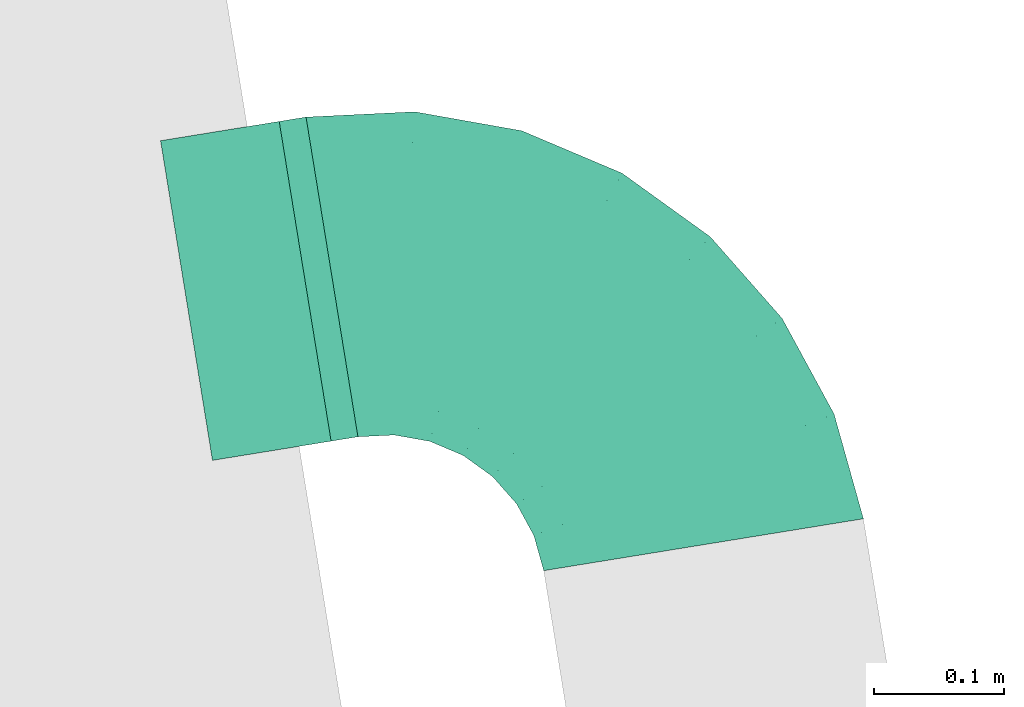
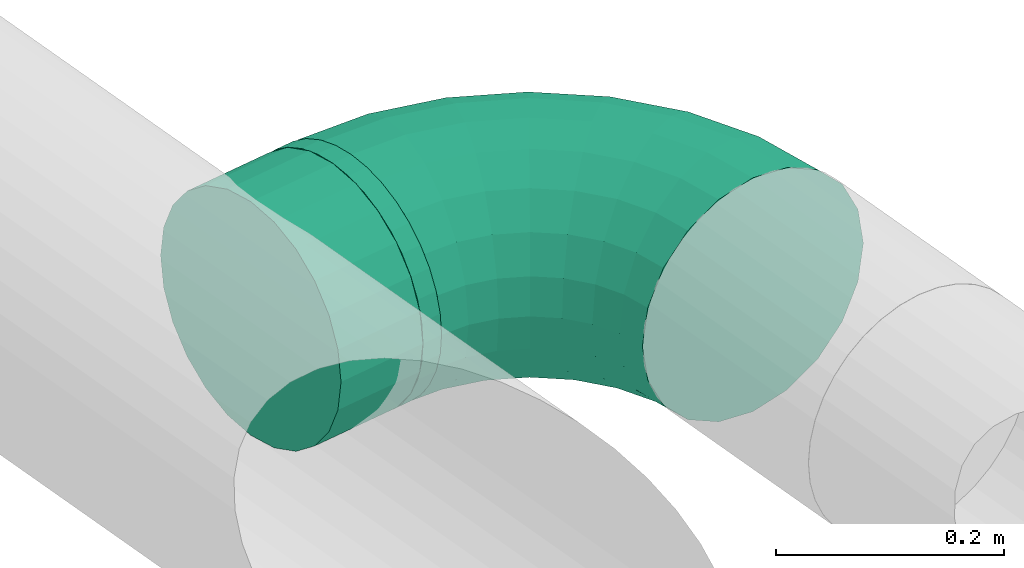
# One storey, part 25 of 39: 2 flow fittings, 1 flow segment.
"""IFC2X3 building model written with IfcOpenShell, lengths in millimetres."""

import ifcopenshell
import ifcopenshell.guid

model = None  # the IFC model being written
_history = None  # IfcOwnerHistory: only IFC2X3 demands one
_inside = {}  # id of a spatial element -> (the spatial element, [elements in it])
_under = {}  # id of a project, library or spatial element -> (it, [spatial elements below it])
_declared = {}  # id of a project -> (the project, [libraries it declares])
_typed = {}  # id of a type object -> (the type object, [elements of that type])
_made_of = {}  # id of a material, layer set ... -> (it, [elements and type objects made of it])


def new_model(schema):
    """Start an empty IFC model of exactly this schema.

    Asked for "IFC4X3", IfcOpenShell would pick the latest addendum, in which some entities
    have other attributes; the version numbers below select the first issue.
    IFC2X3 requires an IfcOwnerHistory on every rooted entity: one is made here for all.
    """
    global model, _history
    if schema == "IFC4X3":
        model = ifcopenshell.file(schema_version=(4, 3, 0, 0))
    else:
        model = ifcopenshell.file(schema=schema)
    _inside.clear()
    _under.clear()
    _declared.clear()
    _typed.clear()
    _made_of.clear()
    _history = None
    if model.schema == "IFC2X3":
        org = make("IfcOrganization", Name="unknown")
        user = make(
            "IfcPersonAndOrganization",
            ThePerson=make("IfcPerson", FamilyName="unknown"),
            TheOrganization=org,
        )
        app = make(
            "IfcApplication",
            ApplicationDeveloper=org,
            Version="unknown",
            ApplicationFullName="unknown",
            ApplicationIdentifier="unknown",
        )
        _history = make(
            "IfcOwnerHistory",
            OwningUser=user,
            OwningApplication=app,
            ChangeAction="ADDED",
            CreationDate=0,
        )
    return model


def make(cls, **values):
    """One entity of the class cls with the attributes given. An attribute that is None is left unset."""
    return model.create_entity(
        cls, **{name: value for name, value in values.items() if value is not None}
    )


def entity(cls, *values):
    """Any entity or typed value of the class cls, its attributes in the order of the schema. None: left unset."""
    e = model.create_entity(cls)
    for i, value in enumerate(values):
        if value is not None:
            e[i] = value
    return e


def rooted(cls, **values):
    """An entity with a GlobalId (a new one), such as an element, a storey or a relation."""
    return make(cls, GlobalId=ifcopenshell.guid.new(), OwnerHistory=_history, **values)


def si_unit(unit_type, name, prefix=None):
    """IfcSIUnit, for example si_unit("LENGTHUNIT", "METRE", prefix="MILLI")."""
    return make("IfcSIUnit", UnitType=unit_type, Prefix=prefix, Name=name)


def converted_unit(unit_type, name, factor, base, dimensions=None, offset=None):
    """IfcConversionBasedUnit, such as the inch: factor (a typed value) times the base unit."""
    return make(
        "IfcConversionBasedUnit"
        if offset is None
        else "IfcConversionBasedUnitWithOffset",
        ConversionOffset=offset,
        Dimensions=None
        if dimensions is None
        else entity("IfcDimensionalExponents", *dimensions),
        UnitType=unit_type,
        Name=name,
        ConversionFactor=make(
            "IfcMeasureWithUnit", ValueComponent=factor, UnitComponent=base
        ),
    )


def derived_unit(unit_type, elements):
    """IfcDerivedUnit: a product of units, each with its exponent."""
    return make(
        "IfcDerivedUnit",
        Elements=[
            make("IfcDerivedUnitElement", Unit=unit, Exponent=power)
            for unit, power in elements
        ],
        UnitType=unit_type,
    )


def assignment(units):
    """IfcUnitAssignment: the units of a project."""
    return None if units is None else make("IfcUnitAssignment", Units=units)


def point(xyz):
    """IfcCartesianPoint."""
    return None if xyz is None else make("IfcCartesianPoint", Coordinates=xyz)


def direction(xyz):
    """IfcDirection."""
    return None if xyz is None else make("IfcDirection", DirectionRatios=xyz)


def frame(location, z_axis=None, x_axis=None):
    """IfcAxis2Placement3D, a coordinate frame: its origin and axes. An axis left out is left unset."""
    return make(
        "IfcAxis2Placement3D",
        Location=point(location),
        Axis=direction(z_axis),
        RefDirection=direction(x_axis),
    )


def frame_2d(location, x_axis=None):
    """IfcAxis2Placement2D, a coordinate frame in the plane: its origin and x axis."""
    return make(
        "IfcAxis2Placement2D", Location=point(location), RefDirection=direction(x_axis)
    )


def origin():
    """The frame at (0, 0, 0) with its axes left unset."""
    return frame((0.0, 0.0, 0.0))


def origin_with_axes():
    """The frame at (0, 0, 0) with the z axis (0, 0, 1) and the x axis (1, 0, 0) written out."""
    return frame((0.0, 0.0, 0.0), z_axis=(0.0, 0.0, 1.0), x_axis=(1.0, 0.0, 0.0))


def place(relative_to, where):
    """IfcLocalPlacement: puts the frame where relative to a parent placement (None: the world)."""
    return make(
        "IfcLocalPlacement", PlacementRelTo=relative_to, RelativePlacement=where
    )


def context(
    kind, dimensions, precision=None, world=None, true_north=None, identifier=None
):
    """IfcGeometricRepresentationContext, for example the 3D "Model" context."""
    return make(
        "IfcGeometricRepresentationContext",
        ContextIdentifier=identifier,
        ContextType=kind,
        CoordinateSpaceDimension=dimensions,
        Precision=precision,
        WorldCoordinateSystem=world,
        TrueNorth=true_north,
    )


def subcontext(parent, identifier, kind, view, scale=None):
    """IfcGeometricRepresentationSubContext, for example "Body" below "Model"."""
    return make(
        "IfcGeometricRepresentationSubContext",
        ContextIdentifier=identifier,
        ContextType=kind,
        ParentContext=parent,
        TargetScale=scale,
        TargetView=view,
    )


def project(units=None, contexts=None):
    """IfcProject with its units and contexts."""
    return rooted(
        "IfcProject",
        Name="project",
        RepresentationContexts=contexts,
        UnitsInContext=assignment(units),
    )


def spatial(cls, under=None, at=None, **own):
    """A site, building, storey or space (cls), placed at a placement, below another one or the project."""
    s = rooted(cls, ObjectPlacement=at, **own)
    if under is not None:
        _under.setdefault(under.id(), (under, []))[1].append(s)
    return s


def profile(cls, at=None, kind="AREA", **sizes):
    """A parametric profile (cls). Its sizes go by their IFC names, for example OverallWidth=200.0."""
    return make(cls, ProfileType=kind, Position=at, **sizes)


def circle(**sizes):
    """IfcCircleProfileDef."""
    return profile("IfcCircleProfileDef", **sizes)


def extrude(swept, where, along, depth):
    """IfcExtrudedAreaSolid: the profile swept, set in the frame where, extruded along a direction by depth."""
    return make(
        "IfcExtrudedAreaSolid",
        SweptArea=swept,
        Position=where,
        ExtrudedDirection=direction(along),
        Depth=depth,
    )


def faces_of(points, faces, orient=None, outer=None):
    """IfcFace entities. A face is a list of loops; a loop is a list of indices into points, from 0.

    orient and outer hold one flag for each loop. By default every Orientation is true, the
    first loop of a face is its IfcFaceOuterBound and the others are IfcFaceBound.
    """
    made = []
    for i, loops in enumerate(faces):
        bounds = []
        for j, loop in enumerate(loops):
            is_outer = j == 0 if outer is None else outer[i][j]
            bounds.append(
                make(
                    "IfcFaceOuterBound" if is_outer else "IfcFaceBound",
                    Bound=make("IfcPolyLoop", Polygon=[points[k] for k in loop]),
                    Orientation=True if orient is None else orient[i][j],
                )
            )
        made.append(make("IfcFace", Bounds=bounds))
    return made


def faceted_brep(points, faces, orient=None, outer=None, voids=None):
    """IfcFacetedBrep: a solid bounded by flat faces; with voids (closed shells), ...WithVoids."""
    shared = [point(p) for p in points]
    hull = make("IfcClosedShell", CfsFaces=faces_of(shared, faces, orient, outer))
    if voids is None:
        return make("IfcFacetedBrep", Outer=hull)
    return make(
        "IfcFacetedBrepWithVoids",
        Outer=hull,
        Voids=[
            make(cls, CfsFaces=faces_of(shared, fs, o, b)) for cls, fs, o, b in voids
        ],
    )


def shape(context_of_items, identifier, shape_type, items):
    """IfcShapeRepresentation: the items that make up one representation, for example the "Body"."""
    return make(
        "IfcShapeRepresentation",
        ContextOfItems=context_of_items,
        RepresentationIdentifier=identifier,
        RepresentationType=shape_type,
        Items=items,
    )


def source(mapping_origin, context_of_items, identifier, shape_type, items):
    """IfcRepresentationMap: a shape defined once, which mapped items show again and again."""
    return make(
        "IfcRepresentationMap",
        MappingOrigin=mapping_origin,
        MappedRepresentation=shape(context_of_items, identifier, shape_type, items),
    )


def transform(
    local_origin,
    x_axis=None,
    y_axis=None,
    z_axis=None,
    scale=None,
    scale2=None,
    scale3=None,
    uniform=True,
):
    """IfcCartesianTransformationOperator3D, or its non-uniform kind. x_axis, y_axis, z_axis: its Axis1, 2, 3."""
    if uniform:
        return make(
            "IfcCartesianTransformationOperator3D",
            Axis1=direction(x_axis),
            Axis2=direction(y_axis),
            LocalOrigin=point(local_origin),
            Scale=scale,
            Axis3=direction(z_axis),
        )
    return make(
        "IfcCartesianTransformationOperator3DnonUniform",
        Axis1=direction(x_axis),
        Axis2=direction(y_axis),
        LocalOrigin=point(local_origin),
        Scale=scale,
        Axis3=direction(z_axis),
        Scale2=scale2,
        Scale3=scale3,
    )


def mapped(mapping_source, mapping_target):
    """IfcMappedItem: shows the shape of a source again, moved by a transform."""
    return make(
        "IfcMappedItem", MappingSource=mapping_source, MappingTarget=mapping_target
    )


def material(Name=None, Category=None):
    """IfcMaterial."""
    return make("IfcMaterial", Name=Name, Category=Category)


def made_of(thing, what):
    """Note that an element or type object is made of a material, layer set ...; save() writes the relation."""
    if what is not None:
        _made_of.setdefault(what.id(), (what, []))[1].append(thing)
    return thing


def type_object(cls, material=None, **own):
    """A type object (cls), such as IfcWallType, which elements share."""
    return made_of(rooted(cls, **own), material)


def element(
    cls,
    number,
    at=None,
    inside=None,
    cuts=None,
    type_object=None,
    material=None,
    context=None,
    identifier="Body",
    shape_type=None,
    held_by="IfcProductDefinitionShape",
    body=None,
    shapes=None,
    **own,
):
    """One element of the class cls, such as IfcWall. Its Tag is "e" and its number.

    at: its placement. inside: the storey or other place that contains it. cuts: it is an
    opening in that element (IfcRelVoidsElement). A single representation is given by context,
    identifier, shape_type and body (its items); several are given by shapes. held_by: the class
    of the entity that holds the representations. save() writes the other relations.
    """
    e = rooted(cls, Tag="e%d" % number, ObjectPlacement=at, **own)
    if body is not None:
        shapes = [shape(context, identifier, shape_type, body)]
    if shapes is not None:
        e.Representation = make(held_by, Representations=shapes)
    if inside is not None:
        _inside.setdefault(inside.id(), (inside, []))[1].append(e)
    if cuts is not None:
        rooted(
            "IfcRelVoidsElement", RelatingBuildingElement=cuts, RelatedOpeningElement=e
        )
    if type_object is not None:
        _typed.setdefault(type_object.id(), (type_object, []))[1].append(e)
    return made_of(e, material)


def aggregate(whole, parts):
    """IfcRelAggregates: a whole, such as a stair, and the parts it consists of."""
    return rooted("IfcRelAggregates", RelatingObject=whole, RelatedObjects=parts)


def save(model, path):
    """Write the relations noted so far, then the file.

    IfcRelAggregates (storeys below a building ...), IfcRelContainedInSpatialStructure (elements
    in a storey), IfcRelDefinesByType, IfcRelAssociatesMaterial and IfcRelDeclares: one each for
    every whole, place, type object, material and project.
    """
    for whole, parts in _under.values():
        aggregate(whole, parts)
    for where, things in _inside.values():
        rooted(
            "IfcRelContainedInSpatialStructure",
            RelatedElements=things,
            RelatingStructure=where,
        )
    for kind, things in _typed.values():
        rooted("IfcRelDefinesByType", RelatedObjects=things, RelatingType=kind)
    for what, things in _made_of.values():
        rooted("IfcRelAssociatesMaterial", RelatedObjects=things, RelatingMaterial=what)
    for by, libraries in _declared.values():
        rooted("IfcRelDeclares", RelatingContext=by, RelatedDefinitions=libraries)
    model.write(path)


model = new_model("IFC2X3")

# Units and contexts
plan_context = context("Plan", 3, precision=1e-05, world=origin_with_axes())
model_context = context("Model", 3, precision=0.01, world=origin(), true_north=direction((6.12323399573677e-17, 1.0)))
body_context = subcontext(model_context, "Body", "Model", "MODEL_VIEW")
ifc_project = project(units=[converted_unit("PLANEANGLEUNIT", "DEGREE", entity("IfcPositiveLengthMeasure", 0.0174532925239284), si_unit("PLANEANGLEUNIT", "RADIAN"), dimensions=[0, 0, 0, 0, 0, 0, 0]), si_unit("AREAUNIT", "SQUARE_METRE"), si_unit("LENGTHUNIT", "METRE", prefix="MILLI"), si_unit("MASSUNIT", "GRAM", prefix="KILO"), si_unit("POWERUNIT", "WATT"), si_unit("PRESSUREUNIT", "PASCAL", prefix="KILO"), si_unit("FORCEUNIT", "NEWTON", prefix="KILO"), si_unit("ELECTRICVOLTAGEUNIT", "VOLT"), si_unit("ELECTRICCURRENTUNIT", "AMPERE"), si_unit("THERMODYNAMICTEMPERATUREUNIT", "DEGREE_CELSIUS"), si_unit("TIMEUNIT", "SECOND"), si_unit("VOLUMEUNIT", "CUBIC_METRE"), derived_unit("LINEARVELOCITYUNIT", [(si_unit("LENGTHUNIT", "METRE"), 1), (si_unit("TIMEUNIT", "SECOND"), -1)]), derived_unit("VOLUMETRICFLOWRATEUNIT", [(si_unit("VOLUMEUNIT", "CUBIC_METRE"), 1), (si_unit("TIMEUNIT", "SECOND"), -1)]), derived_unit("THERMALTRANSMITTANCEUNIT", [(si_unit("POWERUNIT", "WATT"), 1), (si_unit("THERMODYNAMICTEMPERATUREUNIT", "KELVIN"), -1), (si_unit("AREAUNIT", "SQUARE_METRE"), -1)]), derived_unit("SOUNDPRESSUREUNIT", [(si_unit("PRESSUREUNIT", "PASCAL"), 1)])], contexts=[model_context, plan_context])

# Site, building, storey
site_placement = place(None, frame((-0.00071070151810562, 0.00438415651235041, 0.0), z_axis=(0.0, 0.0, 1.0), x_axis=(-0.160236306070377, 0.987078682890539, 0.0)))
site = spatial("IfcSite", under=ifc_project, at=site_placement, Name="Default", CompositionType="ELEMENT")
building_placement = place(site_placement, origin_with_axes())
building = spatial("IfcBuilding", under=site, at=building_placement, CompositionType="ELEMENT")
storey_placement = place(building_placement, frame((0.0, 0.0, 58999.9999999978), z_axis=(0.0, 0.0, 1.0), x_axis=(1.0, 0.0, 0.0)))
storey = spatial("IfcBuildingStorey", under=building, at=storey_placement, Name="Nivå F", CompositionType="ELEMENT", Elevation=58999.9999999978)

# Flow fittings
ifc_material = material(Name="<Unnamed>")
duct_fitting_type_1 = type_object("IfcDuctFittingType", Name="magicirc_elbow_full_radius_1:magicirc_elbow_full_radius_001", PredefinedType="NOTDEFINED", material=ifc_material)
shared_shape_1 = source(origin(), body_context, "Body", "Brep", [
    faceted_brep([(-166.554649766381, -115.597967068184, 0.0), (-167.916018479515, -109.633421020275, 38.6271242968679), (-250.0, -118.882064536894, 38.6271242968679), (-250.0, -125.0, 0.0), (-171.866864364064, -92.3236342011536, 73.4731565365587), (-250.0, -101.127124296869, 73.4731565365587), (-178.020451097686, -65.363009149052, 101.127124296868), (-250.0, -73.4731565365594, 101.127124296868), (-185.774422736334, -31.3906396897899, 118.882064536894), (-250.0, -38.6271242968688, 118.882064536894), (-194.36976651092, 6.26802195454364, 125.0), (-250.0, 0.0, 125.0), (-202.965110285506, 43.9266835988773, 118.882064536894), (-250.0, 38.6271242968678, 118.882064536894), (-210.719081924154, 77.8990530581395, 101.127124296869), (-250.0, 73.4731565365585, 101.127124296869), (-216.872668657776, 104.859678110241, 73.4731565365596), (-250.0, 101.127124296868, 73.4731565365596), (-220.823514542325, 122.169464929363, 38.6271242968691), (-250.0, 118.882064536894, 38.6271242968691), (-222.18488325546, 128.134010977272, 0.0), (-250.0, 125.0, 0.0), (-220.823514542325, 122.169464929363, -38.6271242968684), (-250.0, 118.882064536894, -38.6271242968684), (-216.872668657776, 104.859678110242, -73.473156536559), (-250.0, 101.127124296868, -73.473156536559), (-210.719081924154, 77.8990530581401, -101.127124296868), (-250.0, 73.4731565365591, -101.127124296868), (-202.965110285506, 43.926683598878, -118.882064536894), (-250.0, 38.6271242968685, -118.882064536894), (-194.36976651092, 6.26802195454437, -125.0), (-250.0, 0.0, -125.0), (-185.774422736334, -31.3906396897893, -118.882064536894), (-250.0, -38.6271242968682, -118.882064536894), (-178.020451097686, -65.3630091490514, -101.127124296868), (-250.0, -73.4731565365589, -101.127124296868), (-171.866864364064, -92.3236342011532, -73.4731565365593), (-250.0, -101.127124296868, -73.4731565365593), (-167.916018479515, -109.633421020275, -38.6271242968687), (-250.0, -118.882064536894, -38.6271242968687), (-87.2935978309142, -87.8633254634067, 0.0), (-89.9480705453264, -82.3512560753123, 38.6271242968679), (-97.6516504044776, -66.3546076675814, 73.4731565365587), (-109.650257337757, -41.4392436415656, 101.127124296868), (-124.769384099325, -10.0440534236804, 118.882064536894), (-141.529065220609, 24.7577830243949, 125.0), (-158.288746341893, 59.5596194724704, 118.882064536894), (-173.407873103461, 90.9548096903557, 101.127124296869), (-185.406480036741, 115.870173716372, 73.4731565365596), (-193.110059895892, 131.866822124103, 38.6271242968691), (-195.764532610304, 137.378891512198, 0.0), (-193.110059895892, 131.866822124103, -38.6271242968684), (-185.406480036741, 115.870173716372, -73.473156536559), (-173.407873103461, 90.9548096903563, -101.127124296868), (-158.288746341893, 59.5596194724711, -118.882064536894), (-141.529065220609, 24.7577830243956, -125.0), (-124.769384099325, -10.0440534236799, -118.882064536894), (-109.650257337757, -41.4392436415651, -101.127124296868), (-97.6516504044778, -66.354607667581, -73.4731565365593), (-89.9480705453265, -82.3512560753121, -38.6271242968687), (-16.1913243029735, -43.1868059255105, 0.0), (-20.0057946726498, -38.4036113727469, 38.6271242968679), (-31.0758188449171, -24.5222401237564, 73.4731565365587), (-48.3177857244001, -2.90149751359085, 101.127124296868), (-70.0439314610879, 24.3422275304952, 118.882064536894), (-94.127549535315, 54.5421293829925, 125.0), (-118.211167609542, 84.7420312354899, 118.882064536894), (-139.93731334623, 111.985756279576, 101.127124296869), (-157.179280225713, 133.606498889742, 73.4731565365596), (-168.249304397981, 147.487870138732, 38.6271242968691), (-172.063774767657, 152.271064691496, 0.0), (-168.249304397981, 147.487870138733, -38.6271242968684), (-157.179280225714, 133.606498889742, -73.473156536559), (-139.937313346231, 111.985756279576, -101.127124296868), (-118.211167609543, 84.7420312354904, -118.882064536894), (-94.1275495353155, 54.5421293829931, -125.0), (-70.0439314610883, 24.3422275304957, -118.882064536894), (-48.3177857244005, -2.9014975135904, -101.127124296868), (-31.0758188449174, -24.5222401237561, -73.4731565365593), (-20.00579467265, -38.4036113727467, -38.6271242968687), (43.1868059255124, 16.1913243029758, 0.0), (38.4036113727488, 20.005794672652, 38.6271242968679), (24.5222401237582, 31.0758188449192, 73.4731565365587), (2.9014975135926, 48.3177857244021, 101.127124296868), (-24.3422275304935, 70.0439314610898, 118.882064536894), (-54.5421293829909, 94.1275495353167, 125.0), (-84.7420312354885, 118.211167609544, 118.882064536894), (-111.985756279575, 139.937313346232, 101.127124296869), (-133.60649888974, 157.179280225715, 73.4731565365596), (-147.487870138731, 168.249304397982, 38.6271242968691), (-152.271064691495, 172.063774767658, 0.0), (-147.487870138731, 168.249304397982, -38.6271242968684), (-133.606498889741, 157.179280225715, -73.473156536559), (-111.985756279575, 139.937313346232, -101.127124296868), (-84.742031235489, 118.211167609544, -118.882064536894), (-54.5421293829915, 94.1275495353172, -125.0), (-24.342227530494, 70.0439314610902, -118.882064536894), (2.90149751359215, 48.3177857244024, -101.127124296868), (24.5222401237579, 31.0758188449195, -73.4731565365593), (38.4036113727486, 20.0057946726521, -38.6271242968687), (87.8633254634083, 87.2935978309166, 0.0), (82.3512560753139, 89.9480705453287, 38.6271242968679), (66.3546076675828, 97.6516504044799, 73.4731565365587), (41.4392436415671, 109.650257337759, 101.127124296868), (10.0440534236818, 124.769384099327, 118.882064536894), (-24.7577830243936, 141.529065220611, 125.0), (-59.5596194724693, 158.288746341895, 118.882064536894), (-90.9548096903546, 173.407873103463, 101.127124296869), (-115.870173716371, 185.406480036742, 73.4731565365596), (-131.866822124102, 193.110059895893, 38.6271242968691), (-137.378891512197, 195.764532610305, 0.0), (-131.866822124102, 193.110059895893, -38.6271242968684), (-115.870173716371, 185.406480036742, -73.473156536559), (-90.9548096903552, 173.407873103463, -101.127124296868), (-59.5596194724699, 158.288746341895, -118.882064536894), (-24.7577830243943, 141.529065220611, -125.0), (10.0440534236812, 124.769384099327, -118.882064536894), (41.4392436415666, 109.650257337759, -101.127124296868), (66.3546076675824, 97.65165040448, -73.4731565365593), (82.3512560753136, 89.9480705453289, -38.6271242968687), (115.597967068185, 166.554649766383, 0.0), (109.633421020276, 167.916018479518, 38.6271242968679), (92.3236342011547, 171.866864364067, 73.4731565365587), (65.3630091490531, 178.020451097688, 101.127124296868), (31.390639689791, 185.774422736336, 118.882064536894), (-6.26802195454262, 194.369766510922, 125.0), (-43.9266835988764, 202.965110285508, 118.882064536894), (-77.8990530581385, 210.719081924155, 101.127124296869), (-104.85967811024, 216.872668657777, 73.4731565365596), (-122.169464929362, 220.823514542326, 38.6271242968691), (-128.134010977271, 222.184883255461, 0.0), (-122.169464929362, 220.823514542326, -38.6271242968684), (-104.859678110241, 216.872668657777, -73.473156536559), (-77.8990530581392, 210.719081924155, -101.127124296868), (-43.926683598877, 202.965110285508, -118.882064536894), (-6.26802195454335, 194.369766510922, -125.0), (31.3906396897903, 185.774422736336, -118.882064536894), (65.3630091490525, 178.020451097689, -101.127124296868), (92.3236342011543, 171.866864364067, -73.4731565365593), (109.633421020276, 167.916018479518, -38.6271242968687), (125.0, 250.0, 0.0), (118.882064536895, 250.0, 38.6271242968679), (101.127124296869, 250.0, 73.4731565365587), (73.4731565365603, 250.0, 101.127124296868), (38.6271242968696, 250.0, 118.882064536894), (0.0, 250.0, 125.0), (-38.627124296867, 250.0, 118.882064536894), (-73.4731565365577, 250.0, 101.127124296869), (-101.127124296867, 250.0, 73.4731565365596), (-118.882064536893, 250.0, 38.6271242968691), (-125.0, 250.0, 0.0), (-118.882064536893, 250.0, -38.6271242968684), (-101.127124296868, 250.0, -73.473156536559), (-73.4731565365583, 250.0, -101.127124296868), (-38.6271242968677, 250.0, -118.882064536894), (0.0, 250.0, -125.0), (38.627124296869, 250.0, -118.882064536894), (73.4731565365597, 250.0, -101.127124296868), (101.127124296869, 250.0, -73.4731565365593), (118.882064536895, 250.0, -38.6271242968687)], [[[0, 1, 2, 3]], [[1, 4, 5, 2]], [[4, 6, 7, 5]], [[6, 8, 9, 7]], [[8, 10, 11, 9]], [[10, 12, 13, 11]], [[12, 14, 15, 13]], [[14, 16, 17, 15]], [[16, 18, 19, 17]], [[18, 20, 21, 19]], [[20, 22, 23, 21]], [[22, 24, 25, 23]], [[24, 26, 27, 25]], [[26, 28, 29, 27]], [[28, 30, 31, 29]], [[30, 32, 33, 31]], [[32, 34, 35, 33]], [[34, 36, 37, 35]], [[36, 38, 39, 37]], [[38, 0, 3, 39]], [[40, 41, 1, 0]], [[41, 42, 4, 1]], [[42, 43, 6, 4]], [[43, 44, 8, 6]], [[44, 45, 10, 8]], [[45, 46, 12, 10]], [[46, 47, 14, 12]], [[47, 48, 16, 14]], [[48, 49, 18, 16]], [[49, 50, 20, 18]], [[50, 51, 22, 20]], [[51, 52, 24, 22]], [[52, 53, 26, 24]], [[53, 54, 28, 26]], [[54, 55, 30, 28]], [[55, 56, 32, 30]], [[56, 57, 34, 32]], [[57, 58, 36, 34]], [[58, 59, 38, 36]], [[59, 40, 0, 38]], [[60, 61, 41, 40]], [[61, 62, 42, 41]], [[62, 63, 43, 42]], [[63, 64, 44, 43]], [[64, 65, 45, 44]], [[65, 66, 46, 45]], [[66, 67, 47, 46]], [[67, 68, 48, 47]], [[68, 69, 49, 48]], [[69, 70, 50, 49]], [[70, 71, 51, 50]], [[71, 72, 52, 51]], [[72, 73, 53, 52]], [[73, 74, 54, 53]], [[74, 75, 55, 54]], [[75, 76, 56, 55]], [[76, 77, 57, 56]], [[77, 78, 58, 57]], [[78, 79, 59, 58]], [[79, 60, 40, 59]], [[80, 81, 61, 60]], [[81, 82, 62, 61]], [[82, 83, 63, 62]], [[83, 84, 64, 63]], [[84, 85, 65, 64]], [[85, 86, 66, 65]], [[86, 87, 67, 66]], [[87, 88, 68, 67]], [[88, 89, 69, 68]], [[89, 90, 70, 69]], [[90, 91, 71, 70]], [[91, 92, 72, 71]], [[92, 93, 73, 72]], [[93, 94, 74, 73]], [[94, 95, 75, 74]], [[95, 96, 76, 75]], [[96, 97, 77, 76]], [[97, 98, 78, 77]], [[98, 99, 79, 78]], [[99, 80, 60, 79]], [[100, 101, 81, 80]], [[101, 102, 82, 81]], [[102, 103, 83, 82]], [[103, 104, 84, 83]], [[104, 105, 85, 84]], [[105, 106, 86, 85]], [[106, 107, 87, 86]], [[107, 108, 88, 87]], [[108, 109, 89, 88]], [[109, 110, 90, 89]], [[110, 111, 91, 90]], [[111, 112, 92, 91]], [[112, 113, 93, 92]], [[113, 114, 94, 93]], [[114, 115, 95, 94]], [[115, 116, 96, 95]], [[116, 117, 97, 96]], [[117, 118, 98, 97]], [[118, 119, 99, 98]], [[119, 100, 80, 99]], [[120, 121, 101, 100]], [[121, 122, 102, 101]], [[122, 123, 103, 102]], [[123, 124, 104, 103]], [[124, 125, 105, 104]], [[125, 126, 106, 105]], [[126, 127, 107, 106]], [[127, 128, 108, 107]], [[128, 129, 109, 108]], [[129, 130, 110, 109]], [[130, 131, 111, 110]], [[131, 132, 112, 111]], [[132, 133, 113, 112]], [[133, 134, 114, 113]], [[134, 135, 115, 114]], [[135, 136, 116, 115]], [[136, 137, 117, 116]], [[137, 138, 118, 117]], [[138, 139, 119, 118]], [[139, 120, 100, 119]], [[140, 141, 121, 120]], [[141, 142, 122, 121]], [[142, 143, 123, 122]], [[143, 144, 124, 123]], [[144, 145, 125, 124]], [[145, 146, 126, 125]], [[146, 147, 127, 126]], [[147, 148, 128, 127]], [[148, 149, 129, 128]], [[149, 150, 130, 129]], [[150, 151, 131, 130]], [[151, 152, 132, 131]], [[152, 153, 133, 132]], [[153, 154, 134, 133]], [[154, 155, 135, 134]], [[155, 156, 136, 135]], [[156, 157, 137, 136]], [[157, 158, 138, 137]], [[158, 159, 139, 138]], [[159, 140, 120, 139]], [[3, 2, 5, 7, 9, 11, 13, 15, 17, 19, 21, 23, 25, 27, 29, 31, 33, 35, 37, 39]], [[159, 158, 157, 156, 155, 154, 153, 152, 151, 150, 149, 148, 147, 146, 145, 144, 143, 142, 141, 140]]]),
])
flow_fitting_1_placement = place(storey_placement, frame((780110.119644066, -505490.980498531, 3130.0), z_axis=(0.0, 0.0, 1.0), x_axis=(1.0, 0.0, 0.0)))
element("IfcFlowFitting", 1, at=flow_fitting_1_placement, inside=storey, type_object=duct_fitting_type_1, material=ifc_material, Name="magicirc_elbow_full_radius_1:magicirc_elbow_full_radius_001", ObjectType="magicirc_elbow_full_radius_1:magicirc_elbow_full_radius_001", context=body_context, shape_type="MappedRepresentation", body=[
    mapped(shared_shape_1, transform((0.0, 0.0, 0.0), scale=1.0)),
])
duct_fitting_type_2 = type_object("IfcDuctFittingType", Name="magicirc_tapoutlet_1:magicirc_tapoutlet_001", PredefinedType="NOTDEFINED", material=ifc_material)
shared_shape_2 = source(origin(), body_context, "Body", "Brep", [
    faceted_brep([(-67.7771605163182, 0.0, -125.0), (-67.7771605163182, -32.3523806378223, -120.740728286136), (-67.7771605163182, -62.5000000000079, -108.253175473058), (-67.7771605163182, -88.388347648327, -88.3883476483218), (-67.7771605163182, -108.253175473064, -62.5000000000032), (-67.7771605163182, -120.740728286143, -32.352380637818), (-67.7771605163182, -125.0, 0.0), (-67.7771605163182, -120.740728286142, 32.3523806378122), (-67.7771605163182, -108.253175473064, 62.4999999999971), (-67.7771605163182, -88.3883476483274, 88.3883476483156), (-67.7771605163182, -62.5000000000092, 108.253175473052), (-67.7771605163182, -32.3523806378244, 120.740728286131), (-67.7771605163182, 0.0, 125.0), (-67.7771605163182, 32.3523806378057, 120.740728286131), (-67.7771605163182, 62.4999999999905, 108.253175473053), (-67.7771605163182, 88.388347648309, 88.3883476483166), (-67.7771605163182, 108.253175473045, 62.4999999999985), (-67.7771605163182, 120.740728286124, 32.3523806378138), (-67.7771605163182, 125.0, 0.0), (-67.7771605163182, 120.740728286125, -32.3523806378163), (-67.7771605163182, 108.253175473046, -62.500000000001), (-67.7771605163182, 88.3883476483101, -88.3883476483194), (-67.7771605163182, 62.4999999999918, -108.253175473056), (-67.7771605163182, 32.3523806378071, -120.740728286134), (0.0, 0.0, 125.0), (25.0, 0.0, 125.0), (25.0, 32.3523806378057, 120.740728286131), (0.0, 32.3523806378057, 120.740728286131), (25.0, 62.4999999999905, 108.253175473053), (0.0, 62.4999999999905, 108.253175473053), (25.0, 88.388347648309, 88.3883476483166), (0.0, 88.388347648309, 88.3883476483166), (0.0, 108.253175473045, 62.4999999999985), (25.0, 108.253175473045, 62.4999999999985), (25.0, 120.740728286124, 32.3523806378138), (0.0, 120.740728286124, 32.3523806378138), (25.0, 125.0, 0.0), (0.0, 125.0, 0.0), (25.0, 120.740728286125, -32.3523806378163), (0.0, 120.740728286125, -32.3523806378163), (25.0, 108.253175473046, -62.500000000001), (0.0, 108.253175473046, -62.500000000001), (25.0, 88.3883476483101, -88.3883476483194), (0.0, 88.3883476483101, -88.3883476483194), (0.0, 62.4999999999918, -108.253175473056), (25.0, 62.4999999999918, -108.253175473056), (25.0, 32.3523806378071, -120.740728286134), (0.0, 32.3523806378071, -120.740728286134), (25.0, 0.0, -125.0), (0.0, 0.0, -125.0), (25.0, -32.3523806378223, -120.740728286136), (0.0, -32.3523806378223, -120.740728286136), (25.0, -62.5000000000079, -108.253175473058), (0.0, -62.5000000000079, -108.253175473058), (25.0, -88.388347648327, -88.3883476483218), (0.0, -88.388347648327, -88.3883476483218), (0.0, -108.253175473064, -62.5000000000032), (25.0, -108.253175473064, -62.5000000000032), (25.0, -120.740728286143, -32.352380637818), (0.0, -120.740728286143, -32.352380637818), (25.0, -125.0, 0.0), (0.0, -125.0, 0.0), (25.0, -120.740728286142, 32.3523806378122), (0.0, -120.740728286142, 32.3523806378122), (25.0, -108.253175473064, 62.4999999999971), (0.0, -108.253175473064, 62.4999999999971), (25.0, -88.3883476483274, 88.3883476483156), (0.0, -88.3883476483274, 88.3883476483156), (0.0, -62.5000000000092, 108.253175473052), (25.0, -62.5000000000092, 108.253175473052), (25.0, -32.3523806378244, 120.740728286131), (0.0, -32.3523806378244, 120.740728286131)], [[[0, 1, 2, 3, 4, 5, 6, 7, 8, 9, 10, 11, 12, 13, 14, 15, 16, 17, 18, 19, 20, 21, 22, 23]], [[12, 24, 25, 26, 27, 13]], [[13, 27, 26, 28, 29, 14]], [[15, 14, 29, 28, 30, 31]], [[17, 16, 32, 33, 34, 35]], [[18, 17, 35, 34, 36, 37]], [[15, 31, 30, 33, 32, 16]], [[18, 37, 36, 38, 39, 19]], [[19, 39, 38, 40, 41, 20]], [[21, 20, 41, 40, 42, 43]], [[23, 22, 44, 45, 46, 47]], [[0, 23, 47, 46, 48, 49]], [[21, 43, 42, 45, 44, 22]], [[0, 49, 48, 50, 51, 1]], [[1, 51, 50, 52, 53, 2]], [[3, 2, 53, 52, 54, 55]], [[5, 4, 56, 57, 58, 59]], [[6, 5, 59, 58, 60, 61]], [[3, 55, 54, 57, 56, 4]], [[6, 61, 60, 62, 63, 7]], [[7, 63, 62, 64, 65, 8]], [[9, 8, 65, 64, 66, 67]], [[11, 10, 68, 69, 70, 71]], [[12, 11, 71, 70, 25, 24]], [[9, 67, 66, 69, 68, 10]], [[34, 33, 30, 28, 26, 25, 70, 69, 66, 64, 62, 60, 58, 57, 54, 52, 50, 48, 46, 45, 42, 40, 38, 36]]]),
    faceted_brep([(25.0, 125.0, 0.0), (25.0, 120.740728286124, 32.3523806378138), (25.0, 108.253175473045, 62.4999999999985), (25.0, 88.3883476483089, 88.3883476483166), (25.0, 62.4999999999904, 108.253175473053), (25.0, 32.3523806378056, 120.740728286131), (25.0, 0.0, 125.0), (25.0, -32.3523806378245, 120.740728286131), (25.0, -62.5000000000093, 108.253175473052), (25.0, -88.3883476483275, 88.3883476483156), (25.0, -108.253175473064, 62.4999999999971), (25.0, -120.740728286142, 32.3523806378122), (25.0, -125.0, 0.0), (25.0, -120.740728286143, -32.352380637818), (25.0, -108.253175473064, -62.5000000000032), (25.0, -88.3883476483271, -88.3883476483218), (25.0, -62.500000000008, -108.253175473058), (25.0, -32.3523806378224, -120.740728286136), (25.0, 0.0, -125.0), (25.0, 32.352380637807, -120.740728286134), (25.0, 62.4999999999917, -108.253175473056), (25.0, 88.38834764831, -88.3883476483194), (25.0, 108.253175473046, -62.500000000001), (25.0, 120.740728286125, -32.3523806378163), (0.0, 0.0, 125.0), (0.0, 32.3523806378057, 120.740728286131), (-67.7771605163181, 32.3523806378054, 120.740728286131), (-67.7771605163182, 0.0, 125.0), (0.0, 62.4999999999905, 108.253175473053), (-67.777160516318, 62.4999999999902, 108.253175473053), (0.0, 88.388347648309, 88.3883476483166), (-67.777160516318, 88.3883476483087, 88.3883476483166), (0.0, 108.253175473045, 62.4999999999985), (0.0, 120.740728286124, 32.3523806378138), (-67.7771605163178, 120.740728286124, 32.3523806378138), (-67.7771605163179, 108.253175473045, 62.4999999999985), (0.0, 125.0, 0.0), (-67.7771605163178, 125.0, 0.0), (0.0, 120.740728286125, -32.3523806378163), (-67.7771605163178, 120.740728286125, -32.3523806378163), (0.0, 108.253175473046, -62.500000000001), (-67.7771605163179, 108.253175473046, -62.500000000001), (0.0, 88.38834764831, -88.3883476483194), (-67.777160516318, 88.3883476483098, -88.3883476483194), (0.0, 0.0, -125.0), (-67.7771605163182, 0.0, -125.0), (-67.7771605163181, 32.3523806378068, -120.740728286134), (0.0, 32.352380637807, -120.740728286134), (-67.777160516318, 62.4999999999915, -108.253175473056), (0.0, 62.4999999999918, -108.253175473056), (0.0, -32.3523806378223, -120.740728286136), (-67.7771605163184, -32.3523806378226, -120.740728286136), (0.0, -62.5000000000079, -108.253175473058), (-67.7771605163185, -62.5000000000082, -108.253175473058), (0.0, -88.388347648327, -88.3883476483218), (-67.7771605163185, -88.3883476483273, -88.3883476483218), (0.0, -108.253175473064, -62.5000000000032), (0.0, -120.740728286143, -32.352380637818), (-67.7771605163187, -120.740728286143, -32.352380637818), (-67.7771605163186, -108.253175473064, -62.5000000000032), (0.0, -125.0, 0.0), (-67.7771605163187, -125.0, 0.0), (0.0, -120.740728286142, 32.3523806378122), (-67.7771605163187, -120.740728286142, 32.3523806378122), (0.0, -108.253175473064, 62.499999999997), (-67.7771605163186, -108.253175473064, 62.4999999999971), (0.0, -88.3883476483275, 88.3883476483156), (-67.7771605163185, -88.3883476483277, 88.3883476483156), (0.0, -62.5000000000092, 108.253175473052), (0.0, -32.3523806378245, 120.740728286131), (-67.7771605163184, -32.3523806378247, 120.740728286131), (-67.7771605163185, -62.5000000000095, 108.253175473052)], [[[0, 1, 2, 3, 4, 5, 6, 7, 8, 9, 10, 11, 12, 13, 14, 15, 16, 17, 18, 19, 20, 21, 22, 23]], [[24, 6, 5, 25, 26, 27]], [[25, 5, 4, 28, 29, 26]], [[28, 4, 3, 30, 31, 29]], [[32, 2, 1, 33, 34, 35]], [[33, 1, 0, 36, 37, 34]], [[30, 3, 2, 32, 35, 31]], [[36, 0, 23, 38, 39, 37]], [[38, 23, 22, 40, 41, 39]], [[40, 22, 21, 42, 43, 41]], [[19, 18, 44, 45, 46, 47]], [[20, 19, 47, 46, 48, 49]], [[42, 21, 20, 49, 48, 43]], [[44, 18, 17, 50, 51, 45]], [[50, 17, 16, 52, 53, 51]], [[52, 16, 15, 54, 55, 53]], [[56, 14, 13, 57, 58, 59]], [[57, 13, 12, 60, 61, 58]], [[54, 15, 14, 56, 59, 55]], [[60, 12, 11, 62, 63, 61]], [[62, 11, 10, 64, 65, 63]], [[64, 10, 9, 66, 67, 65]], [[68, 8, 7, 69, 70, 71]], [[69, 7, 6, 24, 27, 70]], [[66, 9, 8, 68, 71, 67]], [[45, 51, 53, 55, 59, 58, 61, 63, 65, 67, 71, 70, 27, 26, 29, 31, 35, 34, 37, 39, 41, 43, 48, 46]]]),
    faceted_brep([(-67.7771605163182, 0.0, -125.0), (-67.7771605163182, -32.3523806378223, -120.740728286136), (-67.7771605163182, -62.5000000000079, -108.253175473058), (-67.7771605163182, -88.388347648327, -88.3883476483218), (-67.7771605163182, -108.253175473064, -62.5000000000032), (-67.7771605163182, -120.740728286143, -32.352380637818), (-67.7771605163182, -125.0, 0.0), (-67.7771605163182, -120.740728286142, 32.3523806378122), (-67.7771605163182, -108.253175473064, 62.4999999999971), (-67.7771605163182, -88.3883476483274, 88.3883476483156), (-67.7771605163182, -62.5000000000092, 108.253175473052), (-67.7771605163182, -32.3523806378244, 120.740728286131), (-67.7771605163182, 0.0, 125.0), (-67.7771605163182, 32.3523806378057, 120.740728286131), (-67.7771605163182, 62.4999999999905, 108.253175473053), (-67.7771605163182, 88.388347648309, 88.3883476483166), (-67.7771605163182, 108.253175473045, 62.4999999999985), (-67.7771605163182, 120.740728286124, 32.3523806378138), (-67.7771605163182, 125.0, 0.0), (-67.7771605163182, 120.740728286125, -32.3523806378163), (-67.7771605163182, 108.253175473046, -62.500000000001), (-67.7771605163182, 88.3883476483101, -88.3883476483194), (-67.7771605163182, 62.4999999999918, -108.253175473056), (-67.7771605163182, 32.3523806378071, -120.740728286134), (0.0, 0.0, 125.0), (25.0, 0.0, 125.0), (25.0, 32.3523806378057, 120.740728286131), (0.0, 32.3523806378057, 120.740728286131), (25.0, 62.4999999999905, 108.253175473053), (0.0, 62.4999999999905, 108.253175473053), (25.0, 88.388347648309, 88.3883476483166), (0.0, 88.388347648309, 88.3883476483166), (0.0, 108.253175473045, 62.4999999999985), (25.0, 108.253175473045, 62.4999999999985), (25.0, 120.740728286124, 32.3523806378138), (0.0, 120.740728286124, 32.3523806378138), (25.0, 125.0, 0.0), (0.0, 125.0, 0.0), (25.0, 120.740728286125, -32.3523806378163), (0.0, 120.740728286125, -32.3523806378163), (25.0, 108.253175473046, -62.500000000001), (0.0, 108.253175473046, -62.500000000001), (25.0, 88.3883476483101, -88.3883476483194), (0.0, 88.3883476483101, -88.3883476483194), (0.0, 62.4999999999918, -108.253175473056), (25.0, 62.4999999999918, -108.253175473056), (25.0, 32.3523806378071, -120.740728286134), (0.0, 32.3523806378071, -120.740728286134), (25.0, 0.0, -125.0), (0.0, 0.0, -125.0), (25.0, -32.3523806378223, -120.740728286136), (0.0, -32.3523806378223, -120.740728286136), (25.0, -62.5000000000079, -108.253175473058), (0.0, -62.5000000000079, -108.253175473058), (25.0, -88.388347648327, -88.3883476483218), (0.0, -88.388347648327, -88.3883476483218), (0.0, -108.253175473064, -62.5000000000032), (25.0, -108.253175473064, -62.5000000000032), (25.0, -120.740728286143, -32.352380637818), (0.0, -120.740728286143, -32.352380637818), (25.0, -125.0, 0.0), (0.0, -125.0, 0.0), (25.0, -120.740728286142, 32.3523806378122), (0.0, -120.740728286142, 32.3523806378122), (25.0, -108.253175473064, 62.4999999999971), (0.0, -108.253175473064, 62.4999999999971), (25.0, -88.3883476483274, 88.3883476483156), (0.0, -88.3883476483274, 88.3883476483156), (0.0, -62.5000000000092, 108.253175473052), (25.0, -62.5000000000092, 108.253175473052), (25.0, -32.3523806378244, 120.740728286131), (0.0, -32.3523806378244, 120.740728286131)], [[[0, 1, 2, 3, 4, 5, 6, 7, 8, 9, 10, 11, 12, 13, 14, 15, 16, 17, 18, 19, 20, 21, 22, 23]], [[12, 24, 25, 26, 27, 13]], [[13, 27, 26, 28, 29, 14]], [[15, 14, 29, 28, 30, 31]], [[17, 16, 32, 33, 34, 35]], [[18, 17, 35, 34, 36, 37]], [[15, 31, 30, 33, 32, 16]], [[18, 37, 36, 38, 39, 19]], [[19, 39, 38, 40, 41, 20]], [[21, 20, 41, 40, 42, 43]], [[23, 22, 44, 45, 46, 47]], [[0, 23, 47, 46, 48, 49]], [[21, 43, 42, 45, 44, 22]], [[0, 49, 48, 50, 51, 1]], [[1, 51, 50, 52, 53, 2]], [[3, 2, 53, 52, 54, 55]], [[5, 4, 56, 57, 58, 59]], [[6, 5, 59, 58, 60, 61]], [[3, 55, 54, 57, 56, 4]], [[6, 61, 60, 62, 63, 7]], [[7, 63, 62, 64, 65, 8]], [[9, 8, 65, 64, 66, 67]], [[11, 10, 68, 69, 70, 71]], [[12, 11, 71, 70, 25, 24]], [[9, 67, 66, 69, 68, 10]], [[34, 33, 30, 28, 26, 25, 70, 69, 66, 64, 62, 60, 58, 57, 54, 52, 50, 48, 46, 45, 42, 40, 38, 36]]]),
])
flow_fitting_2_placement = place(storey_placement, frame((780110.119644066, -505195.008615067, 3130.0), z_axis=(0.0, 0.0, 1.0), x_axis=(0.0, -1.0, 0.0)))
element("IfcFlowFitting", 2, at=flow_fitting_2_placement, inside=storey, type_object=duct_fitting_type_2, material=ifc_material, Name="magicirc_tapoutlet_1:magicirc_tapoutlet_001", ObjectType="magicirc_tapoutlet_1:magicirc_tapoutlet_001", context=body_context, shape_type="MappedRepresentation", body=[
    mapped(shared_shape_2, transform((0.0, 0.0, 0.0), scale=1.0)),
])

# Flow segment
duct_segment_type = type_object("IfcDuctSegmentType", Name="Round Duct:KK001T - Spiro kanaler, Forsinket stål", PredefinedType="NOTDEFINED")
flow_segment_placement = place(storey_placement, origin_with_axes())
element("IfcFlowSegment", 3, at=flow_segment_placement, inside=storey, type_object=duct_segment_type, Name="Round Duct:KK001T - Spiro kanaler, Forsinket stål", ObjectType="Round Duct:KK001T - Spiro kanaler, Forsinket stål", context=body_context, shape_type="SweptSolid", body=[
    extrude(circle(Radius=125.0, at=frame_2d((0.0, -8.66293703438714e-12), x_axis=(1.0, 0.0))), frame((780110.119644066, -505240.980498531, 3130.0), z_axis=(0.0, 1.0, 0.0), x_axis=(-1.0, 0.0, 0.0)), (0.0, 0.0, 1.0), 20.9718834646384),
])

save(model, "model.ifc")
